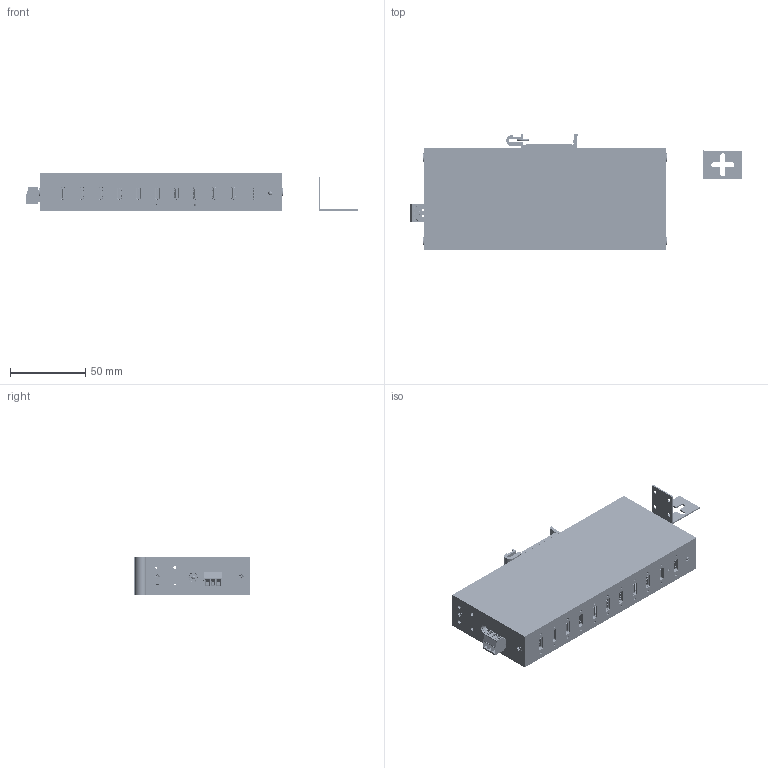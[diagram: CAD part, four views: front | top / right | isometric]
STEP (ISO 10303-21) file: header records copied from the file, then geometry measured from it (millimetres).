
FILE_DESCRIPTION(('FreeCAD Model'),'2;1');
FILE_NAME('Open CASCADE Shape Model','2024-10-11T07:30:42',(''),(''), 'Open CASCADE STEP processor 7.6','FreeCAD','Unknown');
FILE_SCHEMA(('AUTOMOTIVE_DESIGN { 1 0 10303 214 1 1 1 1 }'));
Length unit declared in the file: millimetre
Products named in the file (237): EX_12270HMS_3D; Assem1; 6913053400xx_PIN; 6913053400xx_PIN001; 6913053400xx_PIN002; 691305340003; xb-usb-typec-24pin_001; SOLID; SOLID001; SOLID002; SOLID003; SOLID004; SOLID005; SOLID006; SOLID007; SOLID008; SOLID009; SOLID010; SOLID011; SOLID012; SOLID013; SOLID014; SOLID015; SOLID016; LED_SOLID003#002; LED_SOLID003#001; xb-usb-typec-24pin_002; SOLID017; SOLID018; SOLID019; SOLID020; SOLID021; SOLID022; SOLID023; SOLID024; SOLID025; SOLID026; SOLID027; SOLID028; SOLID029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
Assembly tree (236 placements, depth 4):
  EX_12270HMS_3D
    Assem1
      6913053400xx_PIN
      6913053400xx_PIN001
      6913053400xx_PIN002
      691305340003
    xb-usb-typec-24pin_001
      SOLID
      SOLID001
      SOLID002
      SOLID003
      SOLID004
      SOLID005
      SOLID006
      SOLID007
      SOLID008
      SOLID009
      SOLID010
      SOLID011
      SOLID012
      SOLID013
      SOLID014
      SOLID015
      SOLID016
    LED_SOLID003#002
    LED_SOLID003#001
    xb-usb-typec-24pin_002
      SOLID017
      SOLID018
      SOLID019
      SOLID020
      SOLID021
      SOLID022
      SOLID023
      SOLID024
      SOLID025
      SOLID026
      SOLID027
      SOLID028
      SOLID029
      SOLID030
      SOLID031
      SOLID032
      SOLID033
    xb-usb-typec-24pin_003
      SOLID034
      SOLID035
      SOLID036
      SOLID037
      SOLID038
      SOLID039
      SOLID040
      SOLID041
      SOLID042
      SOLID043
      SOLID044
      SOLID045
      SOLID046
      SOLID047
      SOLID048
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Bounding box: 221.1 x 77.52 x 25.2 mm (x, y, z)
Volume: 63212.8 mm3; surface area: 131709.5 mm2
Topology: 222 solids, 225 shells, 50452 faces, 144218 edges, 93673 vertices
Faces by surface type: plane 39788, cylinder 7924, cone 1771, extrusion 363, bspline 322, torus 270, sphere 14
Full cylindrical faces by diameter (mm): 1 x2, 1.35 x3, 1.598 x3, 1.6 x23, 1.8 x3, 1.9 x6, 2 x3, 2.459 x2, 2.5 x32, 2.6 x3, 2.7 x5, 2.9 x3, 3 x4, 3.4 x1, 4 x2, 5 x6, 5.5 x3, 6.7 x1
Entity records: 1655864 total; most frequent: CARTESIAN_POINT 320347, ORIENTED_EDGE 288404, DIRECTION 258499, EDGE_CURVE 144202, VECTOR 123163, LINE 122800, VERTEX_POINT 93673, AXIS2_PLACEMENT_3D 67668
